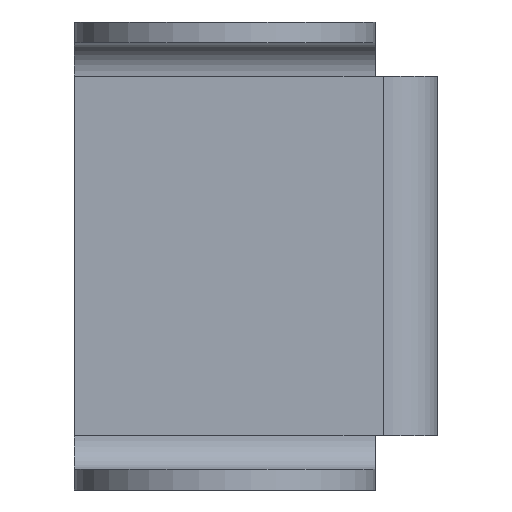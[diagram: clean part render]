
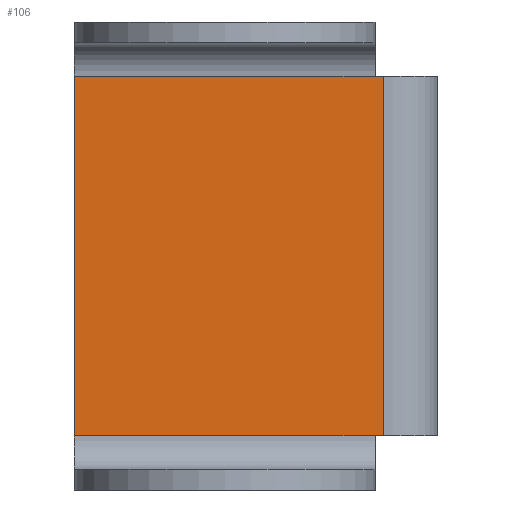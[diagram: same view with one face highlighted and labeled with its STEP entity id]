
A CAD part, front view. The second image highlights one B-rep face of the part: STEP entity #106.
In plain terms, the highlighted planar face has unit normal (0, -1, 0).
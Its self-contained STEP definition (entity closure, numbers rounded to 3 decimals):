
#68=FACE_OUTER_BOUND('',#206,.T.);
#106=ADVANCED_FACE('',(#68),#150,.T.);
#150=PLANE('',#959);
#206=EDGE_LOOP('',(#392,#393,#394,#395,#396,#397));
#392=ORIENTED_EDGE('',*,*,#690,.F.);
#393=ORIENTED_EDGE('',*,*,#703,.T.);
#394=ORIENTED_EDGE('',*,*,#671,.F.);
#395=ORIENTED_EDGE('',*,*,#704,.T.);
#396=ORIENTED_EDGE('',*,*,#696,.T.);
#397=ORIENTED_EDGE('',*,*,#705,.T.);
#587=VERTEX_POINT('',#1366);
#588=VERTEX_POINT('',#1368);
#598=VERTEX_POINT('',#1402);
#599=VERTEX_POINT('',#1403);
#602=VERTEX_POINT('',#1412);
#603=VERTEX_POINT('',#1414);
#671=EDGE_CURVE('',#587,#588,#779,.T.);
#690=EDGE_CURVE('',#598,#599,#796,.T.);
#696=EDGE_CURVE('',#603,#602,#799,.T.);
#703=EDGE_CURVE('',#598,#588,#805,.T.);
#704=EDGE_CURVE('',#587,#603,#806,.T.);
#705=EDGE_CURVE('',#602,#599,#807,.T.);
#779=LINE('',#1367,#869);
#796=LINE('',#1401,#886);
#799=LINE('',#1413,#889);
#805=LINE('',#1425,#895);
#806=LINE('',#1426,#896);
#807=LINE('',#1427,#897);
#869=VECTOR('',#1082,1.);
#886=VECTOR('',#1113,1.);
#889=VECTOR('',#1124,1.);
#895=VECTOR('',#1136,1.);
#896=VECTOR('',#1137,1.);
#897=VECTOR('',#1138,1.);
#959=AXIS2_PLACEMENT_3D('',#1428,#1139,#1140);
#1082=DIRECTION('',(0.,0.,1.));
#1113=DIRECTION('',(1.,0.,0.));
#1124=DIRECTION('',(1.,0.,0.));
#1136=DIRECTION('',(-1.,0.,0.));
#1137=DIRECTION('',(1.,0.,0.));
#1138=DIRECTION('',(0.,0.,1.));
#1139=DIRECTION('',(0.,-1.,0.));
#1140=DIRECTION('',(0.,0.,-1.));
#1366=CARTESIAN_POINT('',(-1245.,95.,-243.));
#1367=CARTESIAN_POINT('',(-1245.,95.,-200.));
#1368=CARTESIAN_POINT('',(-1245.,95.,-157.));
#1401=CARTESIAN_POINT('',(-1163.,95.,-157.));
#1402=CARTESIAN_POINT('',(-1173.,95.,-157.));
#1403=CARTESIAN_POINT('',(-1171.,95.,-157.));
#1412=CARTESIAN_POINT('',(-1171.,95.,-243.));
#1413=CARTESIAN_POINT('',(-1155.,95.,-243.));
#1414=CARTESIAN_POINT('',(-1173.,95.,-243.));
#1425=CARTESIAN_POINT('',(-1155.,95.,-157.));
#1426=CARTESIAN_POINT('',(-1155.,95.,-243.));
#1427=CARTESIAN_POINT('',(-1171.,95.,-235.));
#1428=CARTESIAN_POINT('',(-1155.,95.,-235.));
